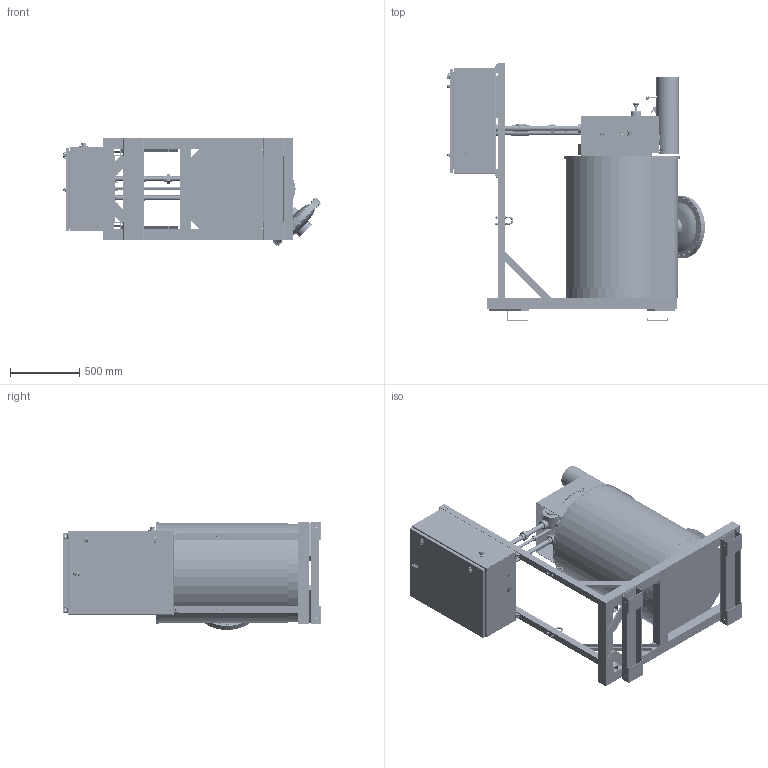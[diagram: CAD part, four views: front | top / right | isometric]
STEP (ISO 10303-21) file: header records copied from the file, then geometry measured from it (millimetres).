
FILE_DESCRIPTION (( 'STEP AP203' ), '1' );
FILE_NAME ('FALCO 300 outer details.STEP', '2017-02-23T13:45:57', ( 'user' ), ( '' ), 'SwSTEP 2.0', 'SolidWorks 2011', '' );
FILE_SCHEMA (( 'CONFIG_CONTROL_DESIGN' ));
Length unit declared in the file: inch
Products named in the file (1): FALCO 300 outer details
Bounding box: 1863.17 x 1866.9 x 779.94 mm (x, y, z)
Surface area: 21751462 mm2 (no closed solid volume)
Topology: 0 solids, 100 shells, 7409 faces, 18923 edges, 11828 vertices
Faces by surface type: plane 3647, cylinder 2494, cone 667, bspline 449, torus 142, sphere 10
Entity records: 269409 total; most frequent: CARTESIAN_POINT 96606, ORIENTED_EDGE 37688, DIRECTION 34299, EDGE_CURVE 18865, VERTEX_POINT 11824, AXIS2_PLACEMENT_3D 11766, VECTOR 10767, LINE 10767
